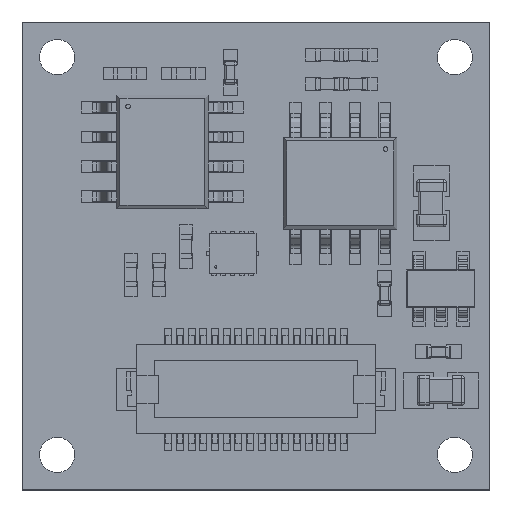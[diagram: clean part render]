
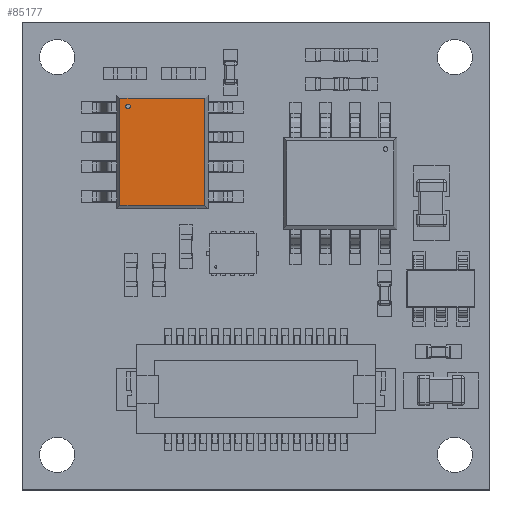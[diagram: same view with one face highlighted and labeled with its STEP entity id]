
A CAD part, top view. The second image highlights one B-rep face of the part: STEP entity #85177.
In plain terms, the highlighted planar face has unit normal (0, 0, 1).
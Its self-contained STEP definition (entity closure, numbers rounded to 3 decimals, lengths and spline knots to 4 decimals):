
#82942 = PLANE('',#82943);
#82943 = AXIS2_PLACEMENT_3D('',#82944,#82945,#82946);
#82944 = CARTESIAN_POINT('',(14.184,26.875,2.2));
#82945 = DIRECTION('',(-0.966,0.,
    0.259));
#82946 = DIRECTION('',(0.259,0.,0.966
    ));
#83823 = VERTEX_POINT('',#83824);
#83824 = CARTESIAN_POINT('',(14.184,26.741,2.2));
#83838 = PLANE('',#83839);
#83839 = AXIS2_PLACEMENT_3D('',#83840,#83841,#83842);
#83840 = CARTESIAN_POINT('',(14.05,26.875,1.7));
#83841 = DIRECTION('',(0.,-0.966,
    -0.259));
#83842 = DIRECTION('',(0.,-0.259,
    0.966));
#83850 = EDGE_CURVE('',#83823,#83851,#83853,.T.);
#83851 = VERTEX_POINT('',#83852);
#83852 = CARTESIAN_POINT('',(14.184,22.159,2.2));
#83853 = SURFACE_CURVE('',#83854,(#83858,#83865),.PCURVE_S1.);
#83854 = LINE('',#83855,#83856);
#83855 = CARTESIAN_POINT('',(14.184,26.875,2.2));
#83856 = VECTOR('',#83857,1.);
#83857 = DIRECTION('',(0.,-1.,0.));
#83858 = PCURVE('',#82942,#83859);
#83859 = DEFINITIONAL_REPRESENTATION('',(#83860),#83864);
#83860 = LINE('',#83861,#83862);
#83861 = CARTESIAN_POINT('',(0.,0.));
#83862 = VECTOR('',#83863,1.);
#83863 = DIRECTION('',(0.,-1.));
#83864 = ( GEOMETRIC_REPRESENTATION_CONTEXT(2) 
PARAMETRIC_REPRESENTATION_CONTEXT() REPRESENTATION_CONTEXT('2D SPACE',''
  ) );
#83865 = PCURVE('',#83866,#83871);
#83866 = PLANE('',#83867);
#83867 = AXIS2_PLACEMENT_3D('',#83868,#83869,#83870);
#83868 = CARTESIAN_POINT('',(17.95,22.025,2.2));
#83869 = DIRECTION('',(0.,0.,1.));
#83870 = DIRECTION('',(-1.,0.,0.));
#83871 = DEFINITIONAL_REPRESENTATION('',(#83872),#83876);
#83872 = LINE('',#83873,#83874);
#83873 = CARTESIAN_POINT('',(3.766,-4.85));
#83874 = VECTOR('',#83875,1.);
#83875 = DIRECTION('',(0.,1.));
#83876 = ( GEOMETRIC_REPRESENTATION_CONTEXT(2) 
PARAMETRIC_REPRESENTATION_CONTEXT() REPRESENTATION_CONTEXT('2D SPACE',''
  ) );
#83894 = PLANE('',#83895);
#83895 = AXIS2_PLACEMENT_3D('',#83896,#83897,#83898);
#83896 = CARTESIAN_POINT('',(14.05,22.025,1.7));
#83897 = DIRECTION('',(0.,0.966,-0.259
    ));
#83898 = DIRECTION('',(0.,-0.259,
    -0.966));
#85130 = VERTEX_POINT('',#85131);
#85131 = CARTESIAN_POINT('',(17.816,22.159,2.2));
#85145 = PLANE('',#85146);
#85146 = AXIS2_PLACEMENT_3D('',#85147,#85148,#85149);
#85147 = CARTESIAN_POINT('',(17.816,26.875,2.2));
#85148 = DIRECTION('',(0.966,0.,0.259
    ));
#85149 = DIRECTION('',(0.259,0.,-0.966
    ));
#85157 = EDGE_CURVE('',#83851,#85130,#85158,.T.);
#85158 = SURFACE_CURVE('',#85159,(#85163,#85170),.PCURVE_S1.);
#85159 = LINE('',#85160,#85161);
#85160 = CARTESIAN_POINT('',(14.05,22.159,2.2));
#85161 = VECTOR('',#85162,1.);
#85162 = DIRECTION('',(1.,0.,0.));
#85163 = PCURVE('',#83894,#85164);
#85164 = DEFINITIONAL_REPRESENTATION('',(#85165),#85169);
#85165 = LINE('',#85166,#85167);
#85166 = CARTESIAN_POINT('',(-0.518,0.));
#85167 = VECTOR('',#85168,1.);
#85168 = DIRECTION('',(0.,-1.));
#85169 = ( GEOMETRIC_REPRESENTATION_CONTEXT(2) 
PARAMETRIC_REPRESENTATION_CONTEXT() REPRESENTATION_CONTEXT('2D SPACE',''
  ) );
#85170 = PCURVE('',#83866,#85171);
#85171 = DEFINITIONAL_REPRESENTATION('',(#85172),#85176);
#85172 = LINE('',#85173,#85174);
#85173 = CARTESIAN_POINT('',(3.9,-0.134));
#85174 = VECTOR('',#85175,1.);
#85175 = DIRECTION('',(-1.,0.));
#85176 = ( GEOMETRIC_REPRESENTATION_CONTEXT(2) 
PARAMETRIC_REPRESENTATION_CONTEXT() REPRESENTATION_CONTEXT('2D SPACE',''
  ) );
#85177 = ADVANCED_FACE('',(#85178,#85226),#83866,.T.);
#85178 = FACE_BOUND('',#85179,.T.);
#85179 = EDGE_LOOP('',(#85180,#85181,#85204,#85225));
#85180 = ORIENTED_EDGE('',*,*,#85157,.T.);
#85181 = ORIENTED_EDGE('',*,*,#85182,.F.);
#85182 = EDGE_CURVE('',#85183,#85130,#85185,.T.);
#85183 = VERTEX_POINT('',#85184);
#85184 = CARTESIAN_POINT('',(17.816,26.741,2.2));
#85185 = SURFACE_CURVE('',#85186,(#85190,#85197),.PCURVE_S1.);
#85186 = LINE('',#85187,#85188);
#85187 = CARTESIAN_POINT('',(17.816,26.875,2.2));
#85188 = VECTOR('',#85189,1.);
#85189 = DIRECTION('',(0.,-1.,0.));
#85190 = PCURVE('',#83866,#85191);
#85191 = DEFINITIONAL_REPRESENTATION('',(#85192),#85196);
#85192 = LINE('',#85193,#85194);
#85193 = CARTESIAN_POINT('',(0.134,-4.85));
#85194 = VECTOR('',#85195,1.);
#85195 = DIRECTION('',(0.,1.));
#85196 = ( GEOMETRIC_REPRESENTATION_CONTEXT(2) 
PARAMETRIC_REPRESENTATION_CONTEXT() REPRESENTATION_CONTEXT('2D SPACE',''
  ) );
#85197 = PCURVE('',#85145,#85198);
#85198 = DEFINITIONAL_REPRESENTATION('',(#85199),#85203);
#85199 = LINE('',#85200,#85201);
#85200 = CARTESIAN_POINT('',(0.,0.));
#85201 = VECTOR('',#85202,1.);
#85202 = DIRECTION('',(0.,-1.));
#85203 = ( GEOMETRIC_REPRESENTATION_CONTEXT(2) 
PARAMETRIC_REPRESENTATION_CONTEXT() REPRESENTATION_CONTEXT('2D SPACE',''
  ) );
#85204 = ORIENTED_EDGE('',*,*,#85205,.F.);
#85205 = EDGE_CURVE('',#83823,#85183,#85206,.T.);
#85206 = SURFACE_CURVE('',#85207,(#85211,#85218),.PCURVE_S1.);
#85207 = LINE('',#85208,#85209);
#85208 = CARTESIAN_POINT('',(14.05,26.741,2.2));
#85209 = VECTOR('',#85210,1.);
#85210 = DIRECTION('',(1.,0.,0.));
#85211 = PCURVE('',#83866,#85212);
#85212 = DEFINITIONAL_REPRESENTATION('',(#85213),#85217);
#85213 = LINE('',#85214,#85215);
#85214 = CARTESIAN_POINT('',(3.9,-4.716));
#85215 = VECTOR('',#85216,1.);
#85216 = DIRECTION('',(-1.,0.));
#85217 = ( GEOMETRIC_REPRESENTATION_CONTEXT(2) 
PARAMETRIC_REPRESENTATION_CONTEXT() REPRESENTATION_CONTEXT('2D SPACE',''
  ) );
#85218 = PCURVE('',#83838,#85219);
#85219 = DEFINITIONAL_REPRESENTATION('',(#85220),#85224);
#85220 = LINE('',#85221,#85222);
#85221 = CARTESIAN_POINT('',(0.518,0.));
#85222 = VECTOR('',#85223,1.);
#85223 = DIRECTION('',(0.,-1.));
#85224 = ( GEOMETRIC_REPRESENTATION_CONTEXT(2) 
PARAMETRIC_REPRESENTATION_CONTEXT() REPRESENTATION_CONTEXT('2D SPACE',''
  ) );
#85225 = ORIENTED_EDGE('',*,*,#83850,.T.);
#85226 = FACE_BOUND('',#85227,.T.);
#85227 = EDGE_LOOP('',(#85228));
#85228 = ORIENTED_EDGE('',*,*,#85229,.F.);
#85229 = EDGE_CURVE('',#85230,#85230,#85232,.T.);
#85230 = VERTEX_POINT('',#85231);
#85231 = CARTESIAN_POINT('',(14.6375,26.3875,2.2));
#85232 = SURFACE_CURVE('',#85233,(#85238,#85245),.PCURVE_S1.);
#85233 = CIRCLE('',#85234,0.1);
#85234 = AXIS2_PLACEMENT_3D('',#85235,#85236,#85237);
#85235 = CARTESIAN_POINT('',(14.5375,26.3875,2.2));
#85236 = DIRECTION('',(0.,0.,1.));
#85237 = DIRECTION('',(1.,0.,0.));
#85238 = PCURVE('',#83866,#85239);
#85239 = DEFINITIONAL_REPRESENTATION('',(#85240),#85244);
#85240 = CIRCLE('',#85241,0.1);
#85241 = AXIS2_PLACEMENT_2D('',#85242,#85243);
#85242 = CARTESIAN_POINT('',(3.412,-4.362));
#85243 = DIRECTION('',(-1.,-0.));
#85244 = ( GEOMETRIC_REPRESENTATION_CONTEXT(2) 
PARAMETRIC_REPRESENTATION_CONTEXT() REPRESENTATION_CONTEXT('2D SPACE',''
  ) );
#85245 = PCURVE('',#85246,#85251);
#85246 = PLANE('',#85247);
#85247 = AXIS2_PLACEMENT_3D('',#85248,#85249,#85250);
#85248 = CARTESIAN_POINT('',(17.95,22.025,2.2));
#85249 = DIRECTION('',(0.,0.,1.));
#85250 = DIRECTION('',(-1.,0.,0.));
#85251 = DEFINITIONAL_REPRESENTATION('',(#85252),#85256);
#85252 = CIRCLE('',#85253,0.1);
#85253 = AXIS2_PLACEMENT_2D('',#85254,#85255);
#85254 = CARTESIAN_POINT('',(3.412,-4.362));
#85255 = DIRECTION('',(-1.,-0.));
#85256 = ( GEOMETRIC_REPRESENTATION_CONTEXT(2) 
PARAMETRIC_REPRESENTATION_CONTEXT() REPRESENTATION_CONTEXT('2D SPACE',''
  ) );
